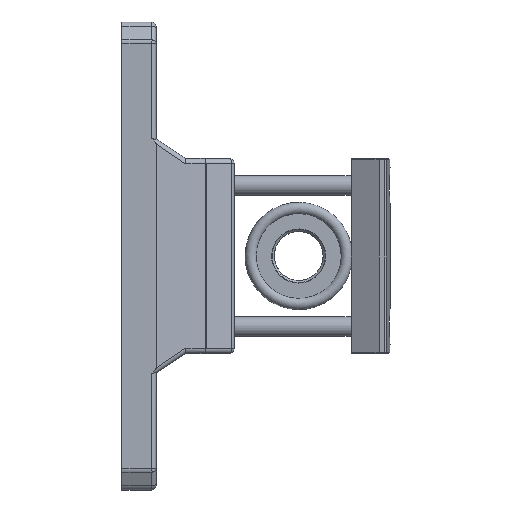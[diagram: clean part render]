
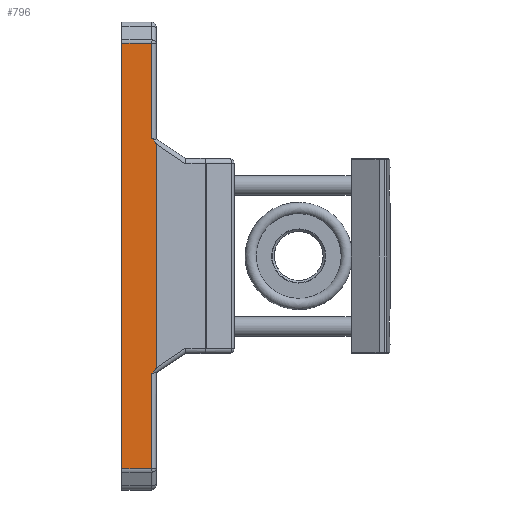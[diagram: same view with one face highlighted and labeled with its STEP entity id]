
A CAD part, left-side view. The second image highlights one B-rep face of the part: STEP entity #796.
In plain terms, the highlighted planar face has unit normal (-1, 0, 0) as drawn and (1, 0, 0) by its records, which use the part's own axes.
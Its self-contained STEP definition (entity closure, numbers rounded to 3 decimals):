
#796 = ADVANCED_FACE( '', ( #1639 ), #1640, .T. );
#1639 = FACE_OUTER_BOUND( '', #2890, .T. );
#1640 = PLANE( '', #2891 );
#2890 = EDGE_LOOP( '', ( #5137, #5138, #5139, #5140, #5141, #5142, #5143, #5144 ) );
#2891 = AXIS2_PLACEMENT_3D( '', #5145, #5146, #5147 );
#5137 = ORIENTED_EDGE( '', *, *, #6295, .T. );
#5138 = ORIENTED_EDGE( '', *, *, #6074, .T. );
#5139 = ORIENTED_EDGE( '', *, *, #6419, .T. );
#5140 = ORIENTED_EDGE( '', *, *, #5827, .T. );
#5141 = ORIENTED_EDGE( '', *, *, #6396, .F. );
#5142 = ORIENTED_EDGE( '', *, *, #6499, .T. );
#5143 = ORIENTED_EDGE( '', *, *, #6556, .T. );
#5144 = ORIENTED_EDGE( '', *, *, #6557, .T. );
#5145 = CARTESIAN_POINT( '', ( 10., -24., 7. ) );
#5146 = DIRECTION( '', ( 1., 0., 0. ) );
#5147 = DIRECTION( '', ( 0., 0., -1. ) );
#5827 = EDGE_CURVE( '', #6782, #6780, #6783, .T. );
#6074 = EDGE_CURVE( '', #7192, #7194, #7196, .F. );
#6295 = EDGE_CURVE( '', #7510, #7192, #7511, .T. );
#6396 = EDGE_CURVE( '', #7658, #6780, #7660, .T. );
#6419 = EDGE_CURVE( '', #7194, #6782, #7688, .F. );
#6499 = EDGE_CURVE( '', #7658, #7786, #7788, .T. );
#6556 = EDGE_CURVE( '', #7786, #7849, #7850, .F. );
#6557 = EDGE_CURVE( '', #7849, #7510, #7851, .T. );
#6780 = VERTEX_POINT( '', #8112 );
#6782 = VERTEX_POINT( '', #8115 );
#6783 = ELLIPSE( '', #8116, 6.21, 1. );
#7192 = VERTEX_POINT( '', #8669 );
#7194 = VERTEX_POINT( '', #8671 );
#7196 = LINE( '', #8673, #8674 );
#7510 = VERTEX_POINT( '', #9080 );
#7511 = LINE( '', #9081, #9082 );
#7658 = VERTEX_POINT( '', #9289 );
#7660 = LINE( '', #9292, #9293 );
#7688 = LINE( '', #9333, #9334 );
#7786 = VERTEX_POINT( '', #9459 );
#7788 = ELLIPSE( '', #9470, 6.21, 1. );
#7849 = VERTEX_POINT( '', #9561 );
#7850 = LINE( '', #9562, #9563 );
#7851 = LINE( '', #9564, #9565 );
#8112 = CARTESIAN_POINT( '', ( 10., 22.926, 7. ) );
#8115 = CARTESIAN_POINT( '', ( 10., 24.273, 6. ) );
#8116 = AXIS2_PLACEMENT_3D( '', #9793, #9794, #9795 );
#8669 = CARTESIAN_POINT( '', ( 10., 43.646, 0. ) );
#8671 = CARTESIAN_POINT( '', ( 10., 43.646, 6. ) );
#8673 = CARTESIAN_POINT( '', ( 10., 43.646, 7. ) );
#8674 = VECTOR( '', #10173, 1000. );
#9080 = CARTESIAN_POINT( '', ( 10., -43.646, 0. ) );
#9081 = CARTESIAN_POINT( '', ( 10., -24., 0. ) );
#9082 = VECTOR( '', #10500, 1000. );
#9289 = CARTESIAN_POINT( '', ( 10., -22.926, 7. ) );
#9292 = CARTESIAN_POINT( '', ( 10., -24., 7. ) );
#9293 = VECTOR( '', #10637, 1000. );
#9333 = CARTESIAN_POINT( '', ( 10., -24., 6. ) );
#9334 = VECTOR( '', #10662, 1000. );
#9459 = CARTESIAN_POINT( '', ( 10., -24.273, 6. ) );
#9470 = AXIS2_PLACEMENT_3D( '', #10747, #10748, #10749 );
#9561 = CARTESIAN_POINT( '', ( 10., -43.646, 6. ) );
#9562 = CARTESIAN_POINT( '', ( 10., -24., 6. ) );
#9563 = VECTOR( '', #10812, 1000. );
#9564 = CARTESIAN_POINT( '', ( 10., -43.646, 7. ) );
#9565 = VECTOR( '', #10813, 1000. );
#9793 = CARTESIAN_POINT( '', ( 10., 26.263, 1.803 ) );
#9794 = DIRECTION( '', ( 1., 0., 0. ) );
#9795 = DIRECTION( '', ( 0., -0.555, 0.832 ) );
#10173 = DIRECTION( '', ( 0., 0., -1. ) );
#10500 = DIRECTION( '', ( 0., 1., 0. ) );
#10637 = DIRECTION( '', ( 0., 1., 0. ) );
#10662 = DIRECTION( '', ( 0., 1., 0. ) );
#10747 = CARTESIAN_POINT( '', ( 10., -26.263, 1.803 ) );
#10748 = DIRECTION( '', ( 1., 0., 0. ) );
#10749 = DIRECTION( '', ( 0., -0.555, -0.832 ) );
#10812 = DIRECTION( '', ( 0., 1., 0. ) );
#10813 = DIRECTION( '', ( 0., 0., -1. ) );
